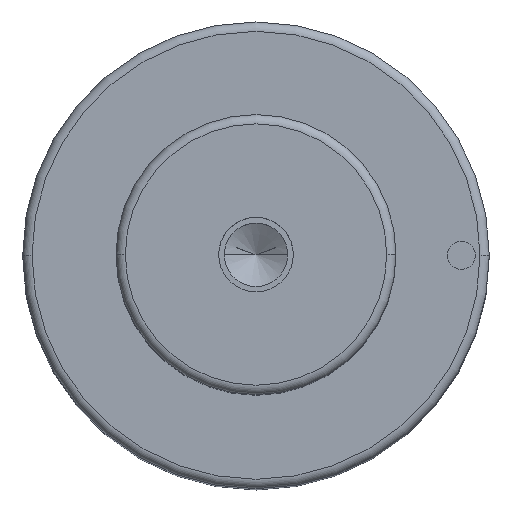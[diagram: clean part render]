
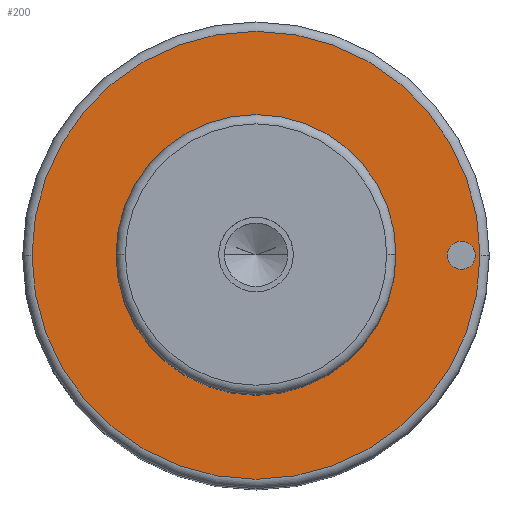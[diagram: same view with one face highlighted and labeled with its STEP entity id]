
A CAD part, top view. The second image highlights one B-rep face of the part: STEP entity #200.
In plain terms, the highlighted planar face has unit normal (0, 0, 1).
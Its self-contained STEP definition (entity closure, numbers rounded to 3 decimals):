
#99=PLANE('',#596);
#107=FACE_BOUND('',#265,.T.);
#108=FACE_BOUND('',#266,.T.);
#109=FACE_BOUND('',#267,.T.);
#200=ADVANCED_FACE('',(#107,#108,#109),#99,.T.);
#265=EDGE_LOOP('',(#359,#360));
#266=EDGE_LOOP('',(#361,#362));
#267=EDGE_LOOP('',(#363,#364));
#359=ORIENTED_EDGE('',*,*,#460,.F.);
#360=ORIENTED_EDGE('',*,*,#461,.F.);
#361=ORIENTED_EDGE('',*,*,#485,.F.);
#362=ORIENTED_EDGE('',*,*,#486,.F.);
#363=ORIENTED_EDGE('',*,*,#456,.T.);
#364=ORIENTED_EDGE('',*,*,#454,.T.);
#411=VERTEX_POINT('',#808);
#412=VERTEX_POINT('',#810);
#413=VERTEX_POINT('',#816);
#416=VERTEX_POINT('',#821);
#430=VERTEX_POINT('',#875);
#431=VERTEX_POINT('',#876);
#454=EDGE_CURVE('',#412,#411,#513,.T.);
#456=EDGE_CURVE('',#411,#412,#514,.T.);
#460=EDGE_CURVE('',#416,#413,#518,.T.);
#461=EDGE_CURVE('',#413,#416,#519,.T.);
#485=EDGE_CURVE('',#430,#431,#533,.T.);
#486=EDGE_CURVE('',#431,#430,#534,.T.);
#513=CIRCLE('',#558,15.);
#514=CIRCLE('',#560,15.);
#518=CIRCLE('',#565,24.);
#519=CIRCLE('',#567,24.);
#533=CIRCLE('',#594,1.5);
#534=CIRCLE('',#595,1.5);
#558=AXIS2_PLACEMENT_3D('',#809,#647,#648);
#560=AXIS2_PLACEMENT_3D('',#813,#652,#653);
#565=AXIS2_PLACEMENT_3D('',#822,#662,#663);
#567=AXIS2_PLACEMENT_3D('',#824,#666,#667);
#594=AXIS2_PLACEMENT_3D('',#874,#730,#731);
#595=AXIS2_PLACEMENT_3D('',#877,#732,#733);
#596=AXIS2_PLACEMENT_3D('',#878,#734,#735);
#647=DIRECTION('',(0.,0.,-1.));
#648=DIRECTION('',(0.,1.,0.));
#652=DIRECTION('',(0.,0.,-1.));
#653=DIRECTION('',(0.,-1.,0.));
#662=DIRECTION('',(0.,0.,-1.));
#663=DIRECTION('',(0.,1.,0.));
#666=DIRECTION('',(0.,0.,-1.));
#667=DIRECTION('',(0.,-1.,0.));
#730=DIRECTION('',(0.,0.,1.));
#731=DIRECTION('',(0.,1.,0.));
#732=DIRECTION('',(0.,0.,1.));
#733=DIRECTION('',(0.,-1.,0.));
#734=DIRECTION('',(0.,0.,1.));
#735=DIRECTION('',(0.,-1.,0.));
#808=CARTESIAN_POINT('',(-15.,0.,84.));
#809=CARTESIAN_POINT('',(0.,0.,84.));
#810=CARTESIAN_POINT('',(15.,0.,84.));
#813=CARTESIAN_POINT('',(0.,0.,84.));
#816=CARTESIAN_POINT('',(-24.,0.,84.));
#821=CARTESIAN_POINT('',(24.,0.,84.));
#822=CARTESIAN_POINT('',(0.,0.,84.));
#824=CARTESIAN_POINT('',(0.,0.,84.));
#874=CARTESIAN_POINT('',(22.,0.,84.));
#875=CARTESIAN_POINT('',(20.5,0.,84.));
#876=CARTESIAN_POINT('',(23.5,0.,84.));
#877=CARTESIAN_POINT('',(22.,0.,84.));
#878=CARTESIAN_POINT('',(0.,0.,84.));
